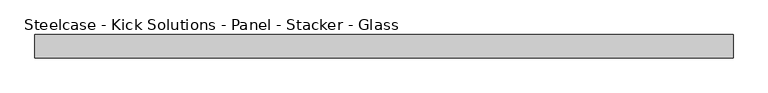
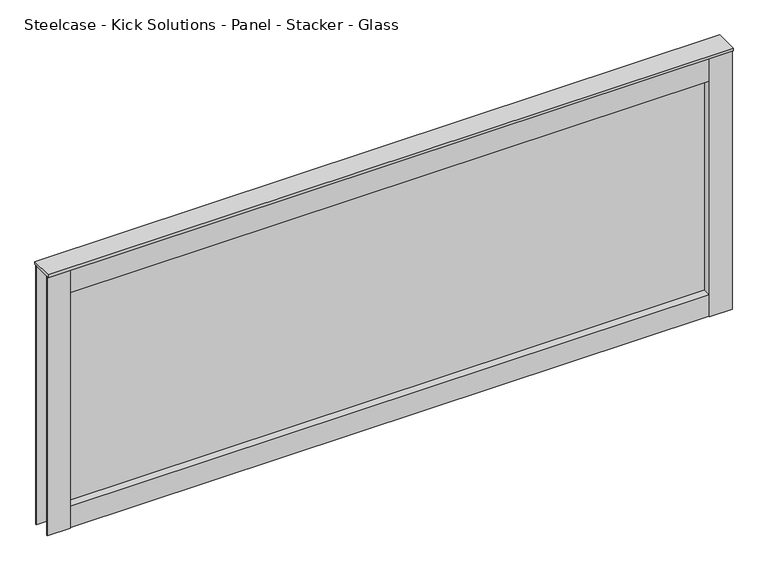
"""IFC4 building model written with IfcOpenShell, lengths in millimetres: furniture geometry, Steelcase - Kick Solutions - Panel - Stacker - Glass : 24H x 60W."""

from ifc_helpers import new_model, si_unit, frame, origin, place, context, project, spatial, polyline, outline, extrude, source, transform, mapped, element, save


def steelcase_kick_solutions_panel_stacker_glass_180fd70d(model_context):
    return source(origin(), model_context, "Body", "SweptSolid", [
        extrude(outline(polyline([(1473.2006661, -5.08), (1473.2006661, -45.7200015), (50.8006646, -45.7200015), (50.8006646, -5.08), (1473.2006661, -5.08)])), frame((0.0, 0.0, 1066.8), z_axis=(0.0, 0.0, 1.0), x_axis=(1.0, 0.0, 0.0)), (0.0, 0.0, 1.0), 50.6830951),
        extrude(outline(polyline([(1473.2006661, -5.08), (1473.2006661, -45.7200015), (50.8006646, -45.7200015), (50.8006646, -5.08), (1473.2006661, -5.08)])), frame((0.0, 0.0, 1619.25), z_axis=(0.0, 0.0, 1.0), x_axis=(1.0, 0.0, 0.0)), (0.0, 0.0, 1.0), 57.15),
        extrude(outline(polyline([(50.8006646, -3.1743148), (50.8006646, -47.6243142), (0.0, -47.6243142), (0.0, -45.7200015), (47.7526646, -45.7200015), (47.7526646, -5.08), (0.0, -5.08), (0.0, -3.1743148), (50.8006646, -3.1743148)])), frame((0.0, 0.0, 1066.8), z_axis=(0.0, 0.0, 1.0), x_axis=(1.0, 0.0, 0.0)), (0.0, 0.0, 1.0), 609.6),
        extrude(outline(polyline([(1473.2006661, -3.1743148), (1524.0, -3.1743148), (1524.0, -5.08), (1476.2486661, -5.08), (1476.2486661, -45.7200015), (1524.0, -45.7200015), (1524.0, -47.6243142), (1473.2006661, -47.6243142), (1473.2006661, -3.1743148)])), frame((0.0, 0.0, 1066.8), z_axis=(0.0, 0.0, 1.0), x_axis=(1.0, 0.0, 0.0)), (0.0, 0.0, 1.0), 609.6),
        extrude(outline(polyline([(1473.2006661, -28.422537), (50.8006646, -28.422537), (50.8006646, -25.4), (1473.2006661, -25.4), (1473.2006661, -28.422537)])), frame((0.0, 0.0, 1117.4830951), z_axis=(0.0, 0.0, 1.0), x_axis=(1.0, 0.0, 0.0)), (0.0, 0.0, 1.0), 501.7669049),
        extrude(outline(polyline([(1524.0, 0.0), (1524.0, -50.8000015), (0.0, -50.8000015), (0.0, 0.0), (1524.0, 0.0)])), frame((0.0, 0.0, 1676.4), z_axis=(0.0, 0.0, 1.0), x_axis=(1.0, 0.0, 0.0)), (0.0, 0.0, 1.0), 6.35),
    ])


if __name__ == "__main__":
    model = new_model("IFC4")
    model_context = context("Model", 3, world=origin())
    ifc_project = project(units=[si_unit("LENGTHUNIT", "METRE", prefix="MILLI")], contexts=[model_context])
    site = spatial("IfcSite", under=ifc_project)
    building = spatial("IfcBuilding", under=site)
    placement = place(None, origin())
    steelcase_kick_solutions_panel_stacker_glass_shape = steelcase_kick_solutions_panel_stacker_glass_180fd70d(model_context)
    element("IfcFurniture", 1, ObjectType="Steelcase - Kick Solutions - Panel - Stacker - Glass : 24H x 60W", at=placement, inside=building, context=model_context, shape_type="MappedRepresentation", body=[
        mapped(steelcase_kick_solutions_panel_stacker_glass_shape, transform((0.0, 0.0, 0.0), x_axis=(1.0, 0.0, 0.0), y_axis=(0.0, 1.0, 0.0), z_axis=(0.0, 0.0, 1.0))),
    ])
    save(model, "model.ifc")
